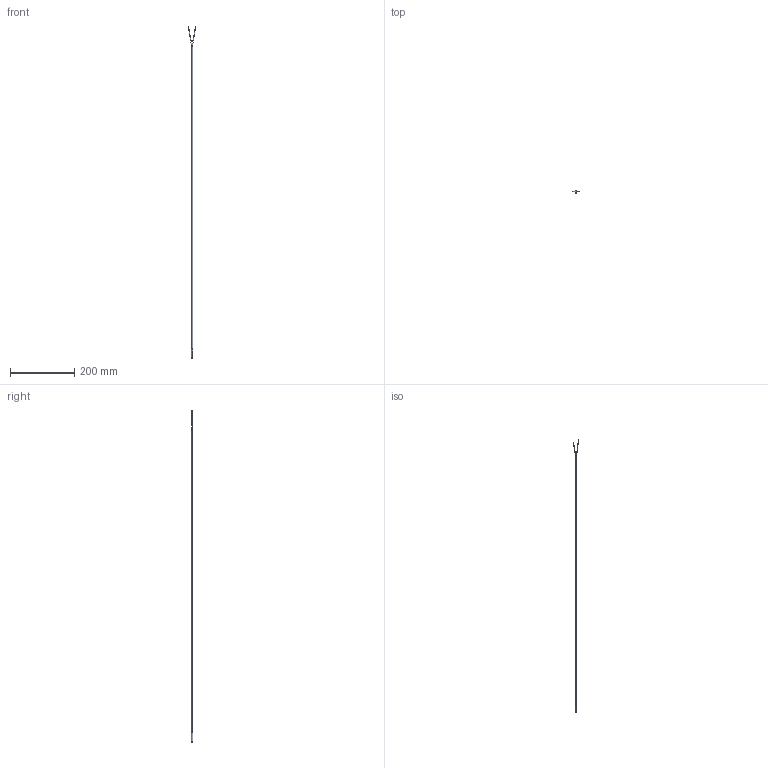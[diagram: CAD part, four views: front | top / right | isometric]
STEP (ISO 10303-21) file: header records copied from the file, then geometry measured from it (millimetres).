
FILE_DESCRIPTION((''),'2;1');
FILE_NAME('6311230704_SW0010','2023-11-07T08:41:12',('Michaela.Grimm'),(''),'CREO PARAMETRIC BY PTC INC, 2022124','CREO PARAMETRIC BY PTC INC, 2022124','');
FILE_SCHEMA(('AUTOMOTIVE_DESIGN { 1 0 10303 214 1 1 1 1 }'));
Length unit declared in the file: millimetre
Products named in the file (1): 6311230704_SW0010
Bounding box: 23.82 x 6 x 1036.57 mm (x, y, z)
Volume: 10780.9 mm3; surface area: 12337.1 mm2
Topology: 2 solids, 2 shells, 25 faces, 46 edges, 29 vertices
Faces by surface type: cylinder 14, plane 9, cone 2
Entity records: 1622 total; most frequent: COLOUR_RGB 148, CARTESIAN_POINT 146, DIRECTION 144, ORIENTED_EDGE 92, PRESENTATION_STYLE_ASSIGNMENT 77, AXIS2_PLACEMENT_3D 61, PROPERTY_DEFINITION 56, REPRESENTATION 55
